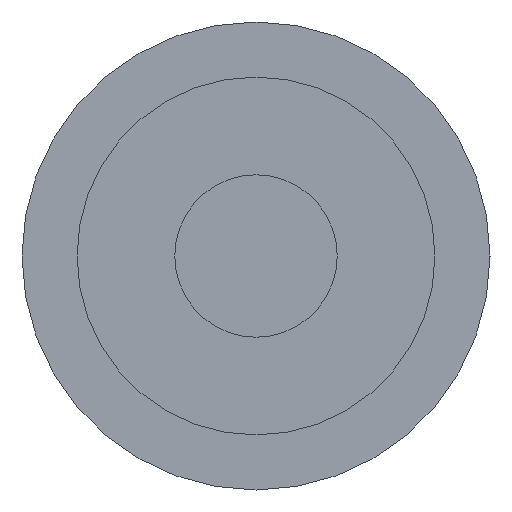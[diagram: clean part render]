
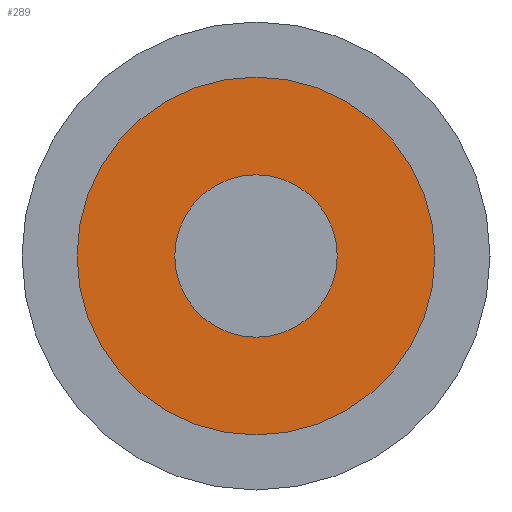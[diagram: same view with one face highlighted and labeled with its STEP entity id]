
A CAD part, left-side view. The second image highlights one B-rep face of the part: STEP entity #289.
In plain terms, the highlighted planar face has unit normal (-1, 0, 0).
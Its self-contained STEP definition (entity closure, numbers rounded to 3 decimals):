
#220 = CYLINDRICAL_SURFACE('',#221,6.5);
#221 = AXIS2_PLACEMENT_3D('',#222,#223,#224);
#222 = CARTESIAN_POINT('',(15.5,-28.,0.));
#223 = DIRECTION('',(-1.,-0.,-0.));
#224 = DIRECTION('',(0.,-1.,0.));
#239 = VERTEX_POINT('',#240);
#240 = CARTESIAN_POINT('',(15.5,-34.5,0.));
#263 = EDGE_CURVE('',#239,#239,#264,.T.);
#264 = SURFACE_CURVE('',#265,(#270,#277),.PCURVE_S1.);
#265 = CIRCLE('',#266,6.5);
#266 = AXIS2_PLACEMENT_3D('',#267,#268,#269);
#267 = CARTESIAN_POINT('',(15.5,-28.,0.));
#268 = DIRECTION('',(1.,0.,0.));
#269 = DIRECTION('',(0.,-1.,0.));
#270 = PCURVE('',#220,#271);
#271 = DEFINITIONAL_REPRESENTATION('',(#272),#276);
#272 = LINE('',#273,#274);
#273 = CARTESIAN_POINT('',(-0.,0.));
#274 = VECTOR('',#275,1.);
#275 = DIRECTION('',(-1.,0.));
#276 = ( GEOMETRIC_REPRESENTATION_CONTEXT(2) 
PARAMETRIC_REPRESENTATION_CONTEXT() REPRESENTATION_CONTEXT('2D SPACE',''
  ) );
#277 = PCURVE('',#278,#283);
#278 = PLANE('',#279);
#279 = AXIS2_PLACEMENT_3D('',#280,#281,#282);
#280 = CARTESIAN_POINT('',(15.5,-28.,0.));
#281 = DIRECTION('',(1.,0.,0.));
#282 = DIRECTION('',(0.,0.,1.));
#283 = DEFINITIONAL_REPRESENTATION('',(#284),#288);
#284 = CIRCLE('',#285,6.5);
#285 = AXIS2_PLACEMENT_2D('',#286,#287);
#286 = CARTESIAN_POINT('',(0.,0.));
#287 = DIRECTION('',(0.,1.));
#288 = ( GEOMETRIC_REPRESENTATION_CONTEXT(2) 
PARAMETRIC_REPRESENTATION_CONTEXT() REPRESENTATION_CONTEXT('2D SPACE',''
  ) );
#289 = ADVANCED_FACE('',(#290,#293),#278,.F.);
#290 = FACE_BOUND('',#291,.F.);
#291 = EDGE_LOOP('',(#292));
#292 = ORIENTED_EDGE('',*,*,#263,.T.);
#293 = FACE_BOUND('',#294,.F.);
#294 = EDGE_LOOP('',(#295));
#295 = ORIENTED_EDGE('',*,*,#296,.F.);
#296 = EDGE_CURVE('',#297,#297,#299,.T.);
#297 = VERTEX_POINT('',#298);
#298 = CARTESIAN_POINT('',(15.5,-30.95,0.));
#299 = SURFACE_CURVE('',#300,(#305,#312),.PCURVE_S1.);
#300 = CIRCLE('',#301,2.95);
#301 = AXIS2_PLACEMENT_3D('',#302,#303,#304);
#302 = CARTESIAN_POINT('',(15.5,-28.,0.));
#303 = DIRECTION('',(1.,0.,0.));
#304 = DIRECTION('',(0.,-1.,0.));
#305 = PCURVE('',#278,#306);
#306 = DEFINITIONAL_REPRESENTATION('',(#307),#311);
#307 = CIRCLE('',#308,2.95);
#308 = AXIS2_PLACEMENT_2D('',#309,#310);
#309 = CARTESIAN_POINT('',(0.,0.));
#310 = DIRECTION('',(0.,1.));
#311 = ( GEOMETRIC_REPRESENTATION_CONTEXT(2) 
PARAMETRIC_REPRESENTATION_CONTEXT() REPRESENTATION_CONTEXT('2D SPACE',''
  ) );
#312 = PCURVE('',#313,#318);
#313 = CYLINDRICAL_SURFACE('',#314,2.95);
#314 = AXIS2_PLACEMENT_3D('',#315,#316,#317);
#315 = CARTESIAN_POINT('',(6.5,-28.,0.));
#316 = DIRECTION('',(-1.,-0.,-0.));
#317 = DIRECTION('',(0.,-1.,0.));
#318 = DEFINITIONAL_REPRESENTATION('',(#319),#323);
#319 = LINE('',#320,#321);
#320 = CARTESIAN_POINT('',(-0.,-9.));
#321 = VECTOR('',#322,1.);
#322 = DIRECTION('',(-1.,0.));
#323 = ( GEOMETRIC_REPRESENTATION_CONTEXT(2) 
PARAMETRIC_REPRESENTATION_CONTEXT() REPRESENTATION_CONTEXT('2D SPACE',''
  ) );
